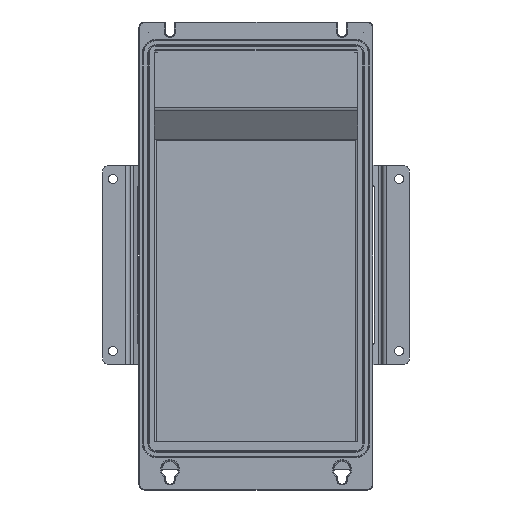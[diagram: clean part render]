
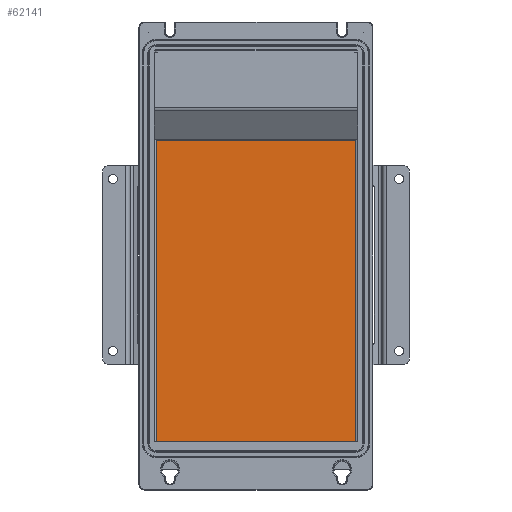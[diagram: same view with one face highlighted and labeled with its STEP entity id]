
A CAD part, front view. The second image highlights one B-rep face of the part: STEP entity #62141.
In plain terms, the highlighted planar face has unit normal (0, -1, 0).
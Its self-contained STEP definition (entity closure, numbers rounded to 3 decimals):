
#1149 = DIRECTION ( 'NONE',  ( -1., 0., 0. ) ) ;
#1950 = VERTEX_POINT ( 'NONE', #63033 ) ;
#3476 = VECTOR ( 'NONE', #1149, 1000. ) ;
#4579 = ORIENTED_EDGE ( 'NONE', *, *, #60399, .F. ) ;
#8548 = ORIENTED_EDGE ( 'NONE', *, *, #57175, .F. ) ;
#10290 = DIRECTION ( 'NONE',  ( -1., 0., 0. ) ) ;
#11739 = DIRECTION ( 'NONE',  ( 1., 0., 0. ) ) ;
#15641 = EDGE_LOOP ( 'NONE', ( #46870, #8548, #46698, #4579 ) ) ;
#20234 = CARTESIAN_POINT ( 'NONE',  ( -72., -73.5, -225. ) ) ;
#21279 = DIRECTION ( 'NONE',  ( 0., 0., -1. ) ) ;
#22056 = PLANE ( 'NONE',  #39885 ) ;
#23134 = VERTEX_POINT ( 'NONE', #58306 ) ;
#26421 = EDGE_CURVE ( 'NONE', #23134, #1950, #44110, .T. ) ;
#27307 = LINE ( 'NONE', #60384, #53314 ) ;
#27913 = VERTEX_POINT ( 'NONE', #32559 ) ;
#29054 = FACE_OUTER_BOUND ( 'NONE', #15641, .T. ) ;
#30006 = LINE ( 'NONE', #47748, #36142 ) ;
#32559 = CARTESIAN_POINT ( 'NONE',  ( -72.616, -73.5, -225. ) ) ;
#36142 = VECTOR ( 'NONE', #57375, 1000. ) ;
#38374 = CARTESIAN_POINT ( 'NONE',  ( 0., -73.5, -83.5 ) ) ;
#39885 = AXIS2_PLACEMENT_3D ( 'NONE', #38374, #49068, #11739 ) ;
#43035 = VECTOR ( 'NONE', #10290, 1000. ) ;
#44110 = LINE ( 'NONE', #61180, #3476 ) ;
#44882 = CARTESIAN_POINT ( 'NONE',  ( 72.616, -73.5, -225. ) ) ;
#46698 = ORIENTED_EDGE ( 'NONE', *, *, #59719, .F. ) ;
#46870 = ORIENTED_EDGE ( 'NONE', *, *, #26421, .T. ) ;
#47748 = CARTESIAN_POINT ( 'NONE',  ( -72.616, -73.5, -1.098 ) ) ;
#49068 = DIRECTION ( 'NONE',  ( 0., 1., 0. ) ) ;
#53314 = VECTOR ( 'NONE', #21279, 1000. ) ;
#57175 = EDGE_CURVE ( 'NONE', #27913, #1950, #30006, .T. ) ;
#57375 = DIRECTION ( 'NONE',  ( 0., 0., 1. ) ) ;
#58306 = CARTESIAN_POINT ( 'NONE',  ( 72.616, -73.5, -6.261 ) ) ;
#58622 = LINE ( 'NONE', #20234, #43035 ) ;
#58680 = VERTEX_POINT ( 'NONE', #44882 ) ;
#59719 = EDGE_CURVE ( 'NONE', #58680, #27913, #58622, .T. ) ;
#60384 = CARTESIAN_POINT ( 'NONE',  ( 72.616, -73.5, -1.098 ) ) ;
#60399 = EDGE_CURVE ( 'NONE', #23134, #58680, #27307, .T. ) ;
#61180 = CARTESIAN_POINT ( 'NONE',  ( 0., -73.5, -6.261 ) ) ;
#62141 = ADVANCED_FACE ( 'NONE', ( #29054 ), #22056, .F. ) ;
#63033 = CARTESIAN_POINT ( 'NONE',  ( -72.616, -73.5, -6.261 ) ) ;
